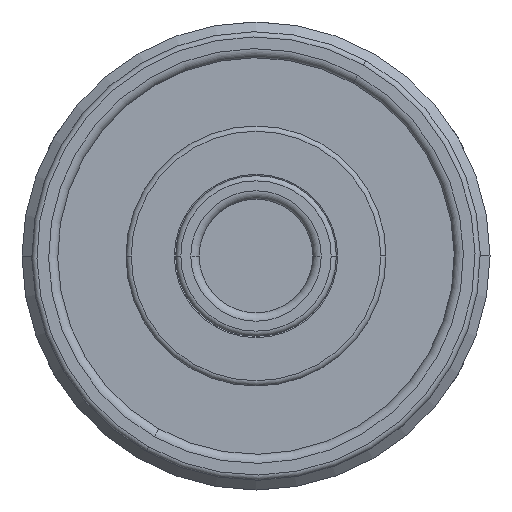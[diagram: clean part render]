
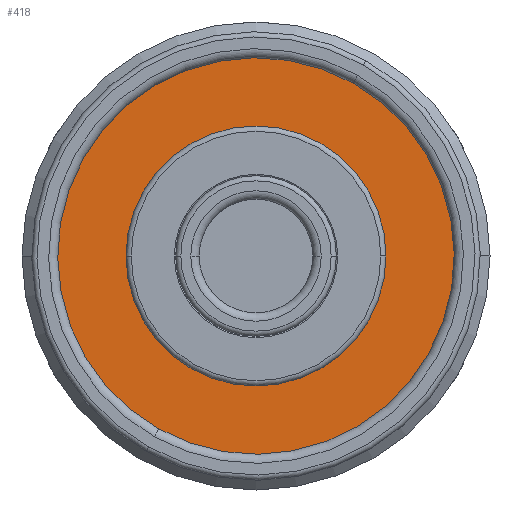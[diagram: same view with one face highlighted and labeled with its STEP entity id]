
A CAD part, front view. The second image highlights one B-rep face of the part: STEP entity #418.
In plain terms, the highlighted planar face has unit normal (0, -1, 0).
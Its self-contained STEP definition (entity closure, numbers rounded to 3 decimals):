
#209=PLANE('',#2435);
#246=FACE_BOUND('',#730,.T.);
#247=FACE_BOUND('',#731,.T.);
#418=ADVANCED_FACE('',(#246,#247),#209,.F.);
#730=EDGE_LOOP('',(#1353,#1354));
#731=EDGE_LOOP('',(#1355,#1356));
#1353=ORIENTED_EDGE('',*,*,#1944,.T.);
#1354=ORIENTED_EDGE('',*,*,#1915,.T.);
#1355=ORIENTED_EDGE('',*,*,#1921,.T.);
#1356=ORIENTED_EDGE('',*,*,#1943,.T.);
#1668=VERTEX_POINT('',#3870);
#1669=VERTEX_POINT('',#3871);
#1670=VERTEX_POINT('',#3879);
#1671=VERTEX_POINT('',#3881);
#1915=EDGE_CURVE('',#1668,#1669,#2133,.T.);
#1921=EDGE_CURVE('',#1671,#1670,#2136,.T.);
#1943=EDGE_CURVE('',#1670,#1671,#2155,.T.);
#1944=EDGE_CURVE('',#1669,#1668,#2156,.T.);
#2133=CIRCLE('',#2396,16.9);
#2136=CIRCLE('',#2401,10.);
#2155=CIRCLE('',#2432,10.);
#2156=CIRCLE('',#2434,16.9);
#2396=AXIS2_PLACEMENT_3D('',#3869,#2986,#2987);
#2401=AXIS2_PLACEMENT_3D('',#3880,#2999,#3000);
#2432=AXIS2_PLACEMENT_3D('',#3925,#3064,#3065);
#2434=AXIS2_PLACEMENT_3D('',#3927,#3068,#3069);
#2435=AXIS2_PLACEMENT_3D('',#3928,#3070,#3071);
#2986=DIRECTION('',(0.,-1.,0.));
#2987=DIRECTION('',(-1.,0.,0.));
#2999=DIRECTION('',(0.,1.,0.));
#3000=DIRECTION('',(-1.,0.,0.));
#3064=DIRECTION('',(0.,1.,0.));
#3065=DIRECTION('',(-1.,0.,0.));
#3068=DIRECTION('',(0.,-1.,0.));
#3069=DIRECTION('',(-1.,0.,0.));
#3070=DIRECTION('',(0.,1.,0.));
#3071=DIRECTION('',(-1.,0.,0.));
#3869=CARTESIAN_POINT('',(0.,21.6,0.));
#3870=CARTESIAN_POINT('',(16.9,21.6,0.));
#3871=CARTESIAN_POINT('',(-16.9,21.6,0.));
#3879=CARTESIAN_POINT('',(10.,21.6,0.));
#3880=CARTESIAN_POINT('',(0.,21.6,0.));
#3881=CARTESIAN_POINT('',(-10.,21.6,0.));
#3925=CARTESIAN_POINT('',(0.,21.6,0.));
#3927=CARTESIAN_POINT('',(0.,21.6,0.));
#3928=CARTESIAN_POINT('',(17.1,21.6,0.));
